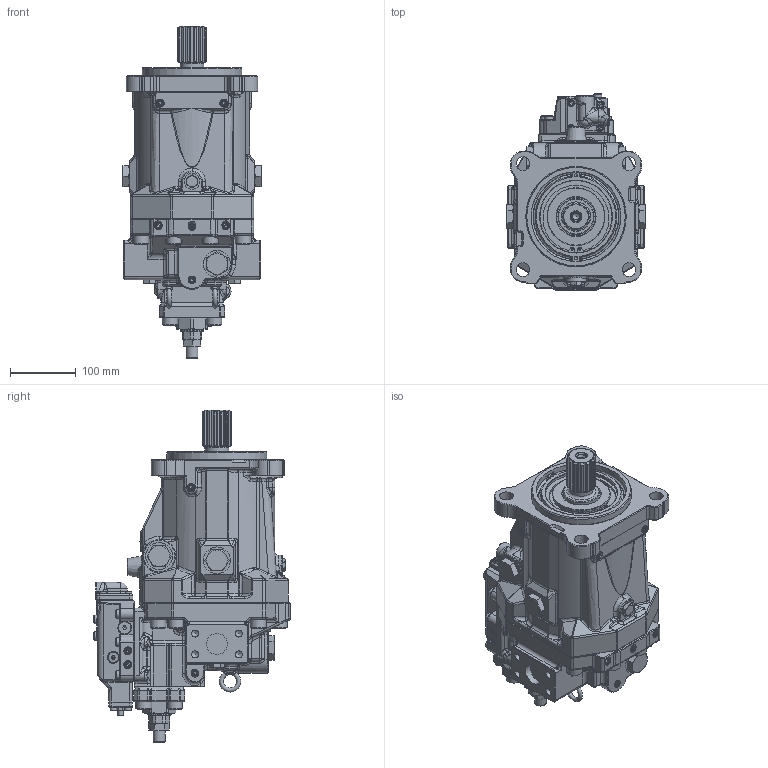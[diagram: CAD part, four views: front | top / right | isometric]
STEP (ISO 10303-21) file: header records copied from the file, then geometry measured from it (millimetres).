
FILE_DESCRIPTION(/* description */ (''),/* implementation_level */ '2;1');
FILE_NAME(/* name */ 'M7V160AB12-AA1P#XXXN-01.stp',/* time_stamp */ '2025-12-17T13:46:09Z',/* author */ ('Sjolliffe'),/* organization */ (''),/* preprocessor_version */ 'ST-DEVELOPER v20',/* originating_system */ 'Autodesk Inventor 2024',/* authorisation */ '');
FILE_SCHEMA (('CONFIG_CONTROL_DESIGN'));
Products named in the file (1): M7V160AB12-AA1P#XXXN-01
Bounding box: 212.02 x 300 x 506.3 mm (x, y, z)
Volume: 11298964.7 mm3; surface area: 485770.5 mm2
Topology: 1 solids, 1 shells, 4024 faces, 10139 edges, 6192 vertices
Faces by surface type: plane 1559, cylinder 1251, bspline 547, cone 438, torus 161, sphere 68
Full cylindrical faces by diameter (mm): 3 x2, 4 x1, 4.917 x2, 6 x1, 8 x1, 8.376 x2, 9.4 x19, 10 x9, 10.106 x1, 10.592 x8, 11 x8, 11.8 x1, 12 x17, 13 x6, 14 x7, 16 x1, 18 x3, 19 x1, 21 x5, 24 x14, 25 x2, 26 x12, 32 x2, 36 x1, 36.5 x1, 41 x5, 52 x1, 55 x1, 59 x1, 86 x1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
Entity records: 142112 total; most frequent: CARTESIAN_POINT 45811, ORIENTED_EDGE 19956, DIRECTION 18926, EDGE_CURVE 9978, AXIS2_PLACEMENT_3D 7076, VERTEX_POINT 6185, LINE 4774, VECTOR 4774
